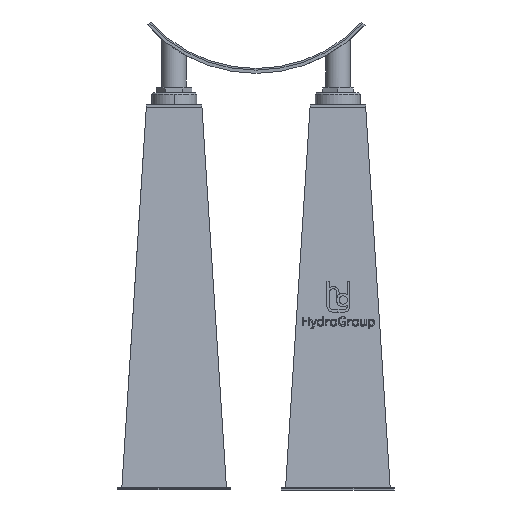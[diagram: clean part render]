
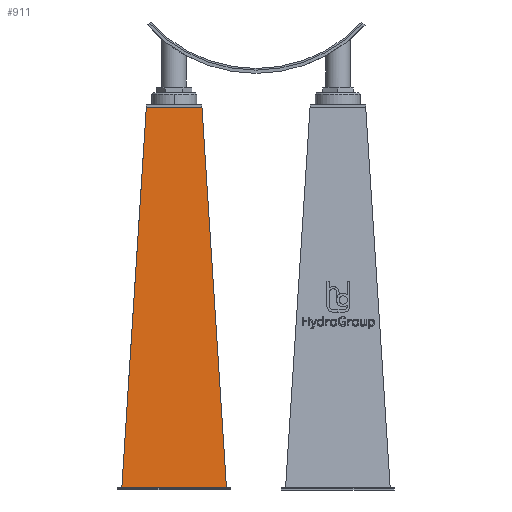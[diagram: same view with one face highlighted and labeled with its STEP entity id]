
A CAD part, front view. The second image highlights one B-rep face of the part: STEP entity #911.
In plain terms, the highlighted planar face has unit normal (0, -0.998, 0.064).
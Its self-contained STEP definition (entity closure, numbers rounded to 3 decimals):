
#911=ADVANCED_FACE('',(#2001),#2002,.F.);
#2001=FACE_OUTER_BOUND('',#3359,.T.);
#2002=PLANE('',#3360);
#3359=EDGE_LOOP('',(#6015,#6016,#6017,#6018));
#3360=AXIS2_PLACEMENT_3D('',#6019,#6020,#6021);
#6015=ORIENTED_EDGE('',*,*,#8822,.T.);
#6016=ORIENTED_EDGE('',*,*,#8838,.F.);
#6017=ORIENTED_EDGE('',*,*,#8848,.F.);
#6018=ORIENTED_EDGE('',*,*,#8576,.T.);
#6019=CARTESIAN_POINT('',(305.17,87.909,935.193));
#6020=DIRECTION('',(0.,0.998,-0.064));
#6021=DIRECTION('',(1.0,0.,0.));
#8576=EDGE_CURVE('',#10236,#10234,#10237,.F.);
#8822=EDGE_CURVE('',#10234,#10560,#10562,.T.);
#8838=EDGE_CURVE('',#10582,#10560,#10584,.T.);
#8848=EDGE_CURVE('',#10236,#10582,#10597,.T.);
#10234=VERTEX_POINT('',#12914);
#10236=VERTEX_POINT('',#12917);
#10237=LINE('',#12918,#12919);
#10560=VERTEX_POINT('',#13504);
#10562=LINE('',#13507,#13508);
#10582=VERTEX_POINT('',#13537);
#10584=LINE('',#13540,#13541);
#10597=LINE('',#13560,#13561);
#12914=CARTESIAN_POINT('',(112.357,28.09,6.));
#12917=CARTESIAN_POINT('',(172.164,87.897,935.));
#12918=CARTESIAN_POINT('',(172.456,88.189,939.534));
#12919=VECTOR('',#16176,1.);
#13504=CARTESIAN_POINT('',(367.983,28.09,6.));
#13507=CARTESIAN_POINT('',(272.67,28.09,6.));
#13508=VECTOR('',#16352,1.0);
#13537=CARTESIAN_POINT('',(308.177,87.897,935.));
#13540=CARTESIAN_POINT('',(307.885,88.189,939.534));
#13541=VECTOR('',#16363,1.);
#13560=CARTESIAN_POINT('',(272.67,87.897,935.));
#13561=VECTOR('',#16370,1.0);
#16176=DIRECTION('',(0.064,0.064,0.996));
#16352=DIRECTION('',(1.0,0.,0.));
#16363=DIRECTION('',(0.064,-0.064,-0.996));
#16370=DIRECTION('',(1.0,0.,0.));
